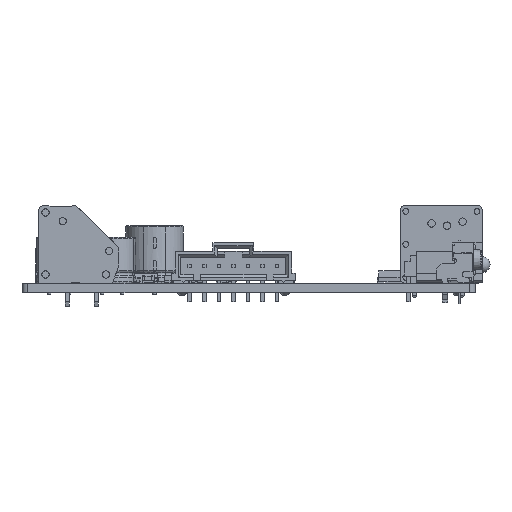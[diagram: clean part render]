
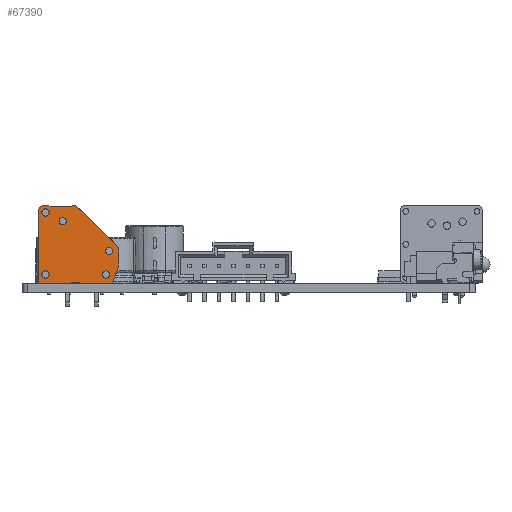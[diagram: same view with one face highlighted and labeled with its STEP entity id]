
A CAD part, left-side view. The second image highlights one B-rep face of the part: STEP entity #67390.
In plain terms, the highlighted planar face has unit normal (-1, 0, 0) as drawn and (0, -1, 0) by its records, which use the part's own axes.
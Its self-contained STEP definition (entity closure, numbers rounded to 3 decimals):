
#66938 = EDGE_CURVE('',#66939,#66941,#66943,.T.);
#66939 = VERTEX_POINT('',#66940);
#66940 = CARTESIAN_POINT('',(1.8,-1.,13.5));
#66941 = VERTEX_POINT('',#66942);
#66942 = CARTESIAN_POINT('',(1.,-1.,13.5));
#66943 = LINE('',#66944,#66945);
#66944 = CARTESIAN_POINT('',(1.,-1.,13.5));
#66945 = VECTOR('',#66946,1.);
#66946 = DIRECTION('',(-1.,0.,0.));
#66978 = EDGE_CURVE('',#66979,#66981,#66983,.T.);
#66979 = VERTEX_POINT('',#66980);
#66980 = CARTESIAN_POINT('',(7.3,-1.,0.));
#66981 = VERTEX_POINT('',#66982);
#66982 = CARTESIAN_POINT('',(12.852,-1.,0.));
#66983 = LINE('',#66984,#66985);
#66984 = CARTESIAN_POINT('',(0.,-1.,0.)
  );
#66985 = VECTOR('',#66986,1.);
#66986 = DIRECTION('',(1.,0.,0.));
#67390 = ADVANCED_FACE('',(#67391,#67514,#67525,#67536,#67547,#67558),
  #67569,.T.);
#67391 = FACE_BOUND('',#67392,.T.);
#67392 = EDGE_LOOP('',(#67393,#67403,#67411,#67419,#67425,#67426,#67434,
    #67443,#67451,#67460,#67468,#67476,#67484,#67492,#67498,#67499,
    #67508));
#67393 = ORIENTED_EDGE('',*,*,#67394,.T.);
#67394 = EDGE_CURVE('',#67395,#67397,#67399,.T.);
#67395 = VERTEX_POINT('',#67396);
#67396 = CARTESIAN_POINT('',(0.,-1.,0.)
  );
#67397 = VERTEX_POINT('',#67398);
#67398 = CARTESIAN_POINT('',(5.5,-1.,0.));
#67399 = LINE('',#67400,#67401);
#67400 = CARTESIAN_POINT('',(0.,-1.,0.)
  );
#67401 = VECTOR('',#67402,1.);
#67402 = DIRECTION('',(1.,0.,0.));
#67403 = ORIENTED_EDGE('',*,*,#67404,.T.);
#67404 = EDGE_CURVE('',#67397,#67405,#67407,.T.);
#67405 = VERTEX_POINT('',#67406);
#67406 = CARTESIAN_POINT('',(5.65,-1.,0.15));
#67407 = LINE('',#67408,#67409);
#67408 = CARTESIAN_POINT('',(10.468,-1.,4.968));
#67409 = VECTOR('',#67410,1.);
#67410 = DIRECTION('',(0.707,0.,0.707)
  );
#67411 = ORIENTED_EDGE('',*,*,#67412,.T.);
#67412 = EDGE_CURVE('',#67405,#67413,#67415,.T.);
#67413 = VERTEX_POINT('',#67414);
#67414 = CARTESIAN_POINT('',(7.15,-1.,0.15));
#67415 = LINE('',#67416,#67417);
#67416 = CARTESIAN_POINT('',(5.65,-1.,0.15));
#67417 = VECTOR('',#67418,1.);
#67418 = DIRECTION('',(1.,0.,0.));
#67419 = ORIENTED_EDGE('',*,*,#67420,.T.);
#67420 = EDGE_CURVE('',#67413,#66979,#67421,.T.);
#67421 = LINE('',#67422,#67423);
#67422 = CARTESIAN_POINT('',(8.018,-1.,-0.718));
#67423 = VECTOR('',#67424,1.);
#67424 = DIRECTION('',(0.707,0.,-0.707
    ));
#67425 = ORIENTED_EDGE('',*,*,#66978,.T.);
#67426 = ORIENTED_EDGE('',*,*,#67427,.T.);
#67427 = EDGE_CURVE('',#66981,#67428,#67430,.T.);
#67428 = VERTEX_POINT('',#67429);
#67429 = CARTESIAN_POINT('',(13.873,-1.,2.665));
#67430 = LINE('',#67431,#67432);
#67431 = CARTESIAN_POINT('',(13.873,-1.,2.665));
#67432 = VECTOR('',#67433,1.);
#67433 = DIRECTION('',(0.358,0.,0.934)
  );
#67434 = ORIENTED_EDGE('',*,*,#67435,.T.);
#67435 = EDGE_CURVE('',#67428,#67436,#67438,.T.);
#67436 = VERTEX_POINT('',#67437);
#67437 = CARTESIAN_POINT('',(14.,-1.,3.35));
#67438 = CIRCLE('',#67439,1.915);
#67439 = AXIS2_PLACEMENT_3D('',#67440,#67441,#67442);
#67440 = CARTESIAN_POINT('',(12.085,-1.,3.35));
#67441 = DIRECTION('',(0.,-1.,0.));
#67442 = DIRECTION('',(-1.,0.,0.));
#67443 = ORIENTED_EDGE('',*,*,#67444,.T.);
#67444 = EDGE_CURVE('',#67436,#67445,#67447,.T.);
#67445 = VERTEX_POINT('',#67446);
#67446 = CARTESIAN_POINT('',(14.,-1.,5.6));
#67447 = LINE('',#67448,#67449);
#67448 = CARTESIAN_POINT('',(14.,-1.,3.35));
#67449 = VECTOR('',#67450,1.);
#67450 = DIRECTION('',(0.,0.,1.));
#67451 = ORIENTED_EDGE('',*,*,#67452,.T.);
#67452 = EDGE_CURVE('',#67445,#67453,#67455,.T.);
#67453 = VERTEX_POINT('',#67454);
#67454 = CARTESIAN_POINT('',(13.578,-1.,6.6));
#67455 = CIRCLE('',#67456,1.397);
#67456 = AXIS2_PLACEMENT_3D('',#67457,#67458,#67459);
#67457 = CARTESIAN_POINT('',(12.603,-1.,5.6));
#67458 = DIRECTION('',(0.,-1.,0.));
#67459 = DIRECTION('',(-1.,0.,0.));
#67460 = ORIENTED_EDGE('',*,*,#67461,.T.);
#67461 = EDGE_CURVE('',#67453,#67462,#67464,.T.);
#67462 = VERTEX_POINT('',#67463);
#67463 = CARTESIAN_POINT('',(6.5,-1.,13.5));
#67464 = LINE('',#67465,#67466);
#67465 = CARTESIAN_POINT('',(6.5,-1.,13.5));
#67466 = VECTOR('',#67467,1.);
#67467 = DIRECTION('',(-0.716,0.,
    0.698));
#67468 = ORIENTED_EDGE('',*,*,#67469,.T.);
#67469 = EDGE_CURVE('',#67462,#67470,#67472,.T.);
#67470 = VERTEX_POINT('',#67471);
#67471 = CARTESIAN_POINT('',(5.95,-1.,13.5));
#67472 = LINE('',#67473,#67474);
#67473 = CARTESIAN_POINT('',(1.,-1.,13.5));
#67474 = VECTOR('',#67475,1.);
#67475 = DIRECTION('',(-1.,0.,0.));
#67476 = ORIENTED_EDGE('',*,*,#67477,.F.);
#67477 = EDGE_CURVE('',#67478,#67470,#67480,.T.);
#67478 = VERTEX_POINT('',#67479);
#67479 = CARTESIAN_POINT('',(5.75,-1.,13.35));
#67480 = LINE('',#67481,#67482);
#67481 = CARTESIAN_POINT('',(5.004,-1.,12.791));
#67482 = VECTOR('',#67483,1.);
#67483 = DIRECTION('',(0.8,0.,0.6));
#67484 = ORIENTED_EDGE('',*,*,#67485,.F.);
#67485 = EDGE_CURVE('',#67486,#67478,#67488,.T.);
#67486 = VERTEX_POINT('',#67487);
#67487 = CARTESIAN_POINT('',(2.,-1.,13.35));
#67488 = LINE('',#67489,#67490);
#67489 = CARTESIAN_POINT('',(5.75,-1.,13.35));
#67490 = VECTOR('',#67491,1.);
#67491 = DIRECTION('',(1.,0.,0.));
#67492 = ORIENTED_EDGE('',*,*,#67493,.F.);
#67493 = EDGE_CURVE('',#66939,#67486,#67494,.T.);
#67494 = LINE('',#67495,#67496);
#67495 = CARTESIAN_POINT('',(13.254,-1.,4.909));
#67496 = VECTOR('',#67497,1.);
#67497 = DIRECTION('',(0.8,0.,-0.6));
#67498 = ORIENTED_EDGE('',*,*,#66938,.T.);
#67499 = ORIENTED_EDGE('',*,*,#67500,.T.);
#67500 = EDGE_CURVE('',#66941,#67501,#67503,.T.);
#67501 = VERTEX_POINT('',#67502);
#67502 = CARTESIAN_POINT('',(0.,-1.,12.5));
#67503 = CIRCLE('',#67504,1.);
#67504 = AXIS2_PLACEMENT_3D('',#67505,#67506,#67507);
#67505 = CARTESIAN_POINT('',(1.,-1.,12.5));
#67506 = DIRECTION('',(0.,-1.,0.));
#67507 = DIRECTION('',(1.,0.,0.));
#67508 = ORIENTED_EDGE('',*,*,#67509,.T.);
#67509 = EDGE_CURVE('',#67501,#67395,#67510,.T.);
#67510 = LINE('',#67511,#67512);
#67511 = CARTESIAN_POINT('',(0.,-1.,0.)
  );
#67512 = VECTOR('',#67513,1.);
#67513 = DIRECTION('',(0.,0.,-1.));
#67514 = FACE_BOUND('',#67515,.T.);
#67515 = EDGE_LOOP('',(#67516));
#67516 = ORIENTED_EDGE('',*,*,#67517,.F.);
#67517 = EDGE_CURVE('',#67518,#67518,#67520,.T.);
#67518 = VERTEX_POINT('',#67519);
#67519 = CARTESIAN_POINT('',(12.3,-1.,4.975));
#67520 = CIRCLE('',#67521,0.625);
#67521 = AXIS2_PLACEMENT_3D('',#67522,#67523,#67524);
#67522 = CARTESIAN_POINT('',(12.3,-1.,5.6));
#67523 = DIRECTION('',(0.,-1.,0.));
#67524 = DIRECTION('',(0.,0.,-1.));
#67525 = FACE_BOUND('',#67526,.T.);
#67526 = EDGE_LOOP('',(#67527));
#67527 = ORIENTED_EDGE('',*,*,#67528,.F.);
#67528 = EDGE_CURVE('',#67529,#67529,#67531,.T.);
#67529 = VERTEX_POINT('',#67530);
#67530 = CARTESIAN_POINT('',(4.2,-1.,10.175));
#67531 = CIRCLE('',#67532,0.625);
#67532 = AXIS2_PLACEMENT_3D('',#67533,#67534,#67535);
#67533 = CARTESIAN_POINT('',(4.2,-1.,10.8));
#67534 = DIRECTION('',(0.,-1.,0.));
#67535 = DIRECTION('',(0.,0.,-1.));
#67536 = FACE_BOUND('',#67537,.T.);
#67537 = EDGE_LOOP('',(#67538));
#67538 = ORIENTED_EDGE('',*,*,#67539,.F.);
#67539 = EDGE_CURVE('',#67540,#67540,#67542,.T.);
#67540 = VERTEX_POINT('',#67541);
#67541 = CARTESIAN_POINT('',(11.75,-1.,0.875));
#67542 = CIRCLE('',#67543,0.625);
#67543 = AXIS2_PLACEMENT_3D('',#67544,#67545,#67546);
#67544 = CARTESIAN_POINT('',(11.75,-1.,1.5));
#67545 = DIRECTION('',(0.,-1.,0.));
#67546 = DIRECTION('',(0.,0.,-1.));
#67547 = FACE_BOUND('',#67548,.T.);
#67548 = EDGE_LOOP('',(#67549));
#67549 = ORIENTED_EDGE('',*,*,#67550,.F.);
#67550 = EDGE_CURVE('',#67551,#67551,#67553,.T.);
#67551 = VERTEX_POINT('',#67552);
#67552 = CARTESIAN_POINT('',(1.2,-1.,0.875));
#67553 = CIRCLE('',#67554,0.625);
#67554 = AXIS2_PLACEMENT_3D('',#67555,#67556,#67557);
#67555 = CARTESIAN_POINT('',(1.2,-1.,1.5));
#67556 = DIRECTION('',(0.,-1.,0.));
#67557 = DIRECTION('',(0.,0.,-1.));
#67558 = FACE_BOUND('',#67559,.T.);
#67559 = EDGE_LOOP('',(#67560));
#67560 = ORIENTED_EDGE('',*,*,#67561,.F.);
#67561 = EDGE_CURVE('',#67562,#67562,#67564,.T.);
#67562 = VERTEX_POINT('',#67563);
#67563 = CARTESIAN_POINT('',(1.2,-1.,11.675));
#67564 = CIRCLE('',#67565,0.625);
#67565 = AXIS2_PLACEMENT_3D('',#67566,#67567,#67568);
#67566 = CARTESIAN_POINT('',(1.2,-1.,12.3));
#67567 = DIRECTION('',(0.,-1.,0.));
#67568 = DIRECTION('',(0.,0.,-1.));
#67569 = PLANE('',#67570);
#67570 = AXIS2_PLACEMENT_3D('',#67571,#67572,#67573);
#67571 = CARTESIAN_POINT('',(12.085,-1.,3.35));
#67572 = DIRECTION('',(0.,-1.,0.));
#67573 = DIRECTION('',(0.,0.,-1.));
